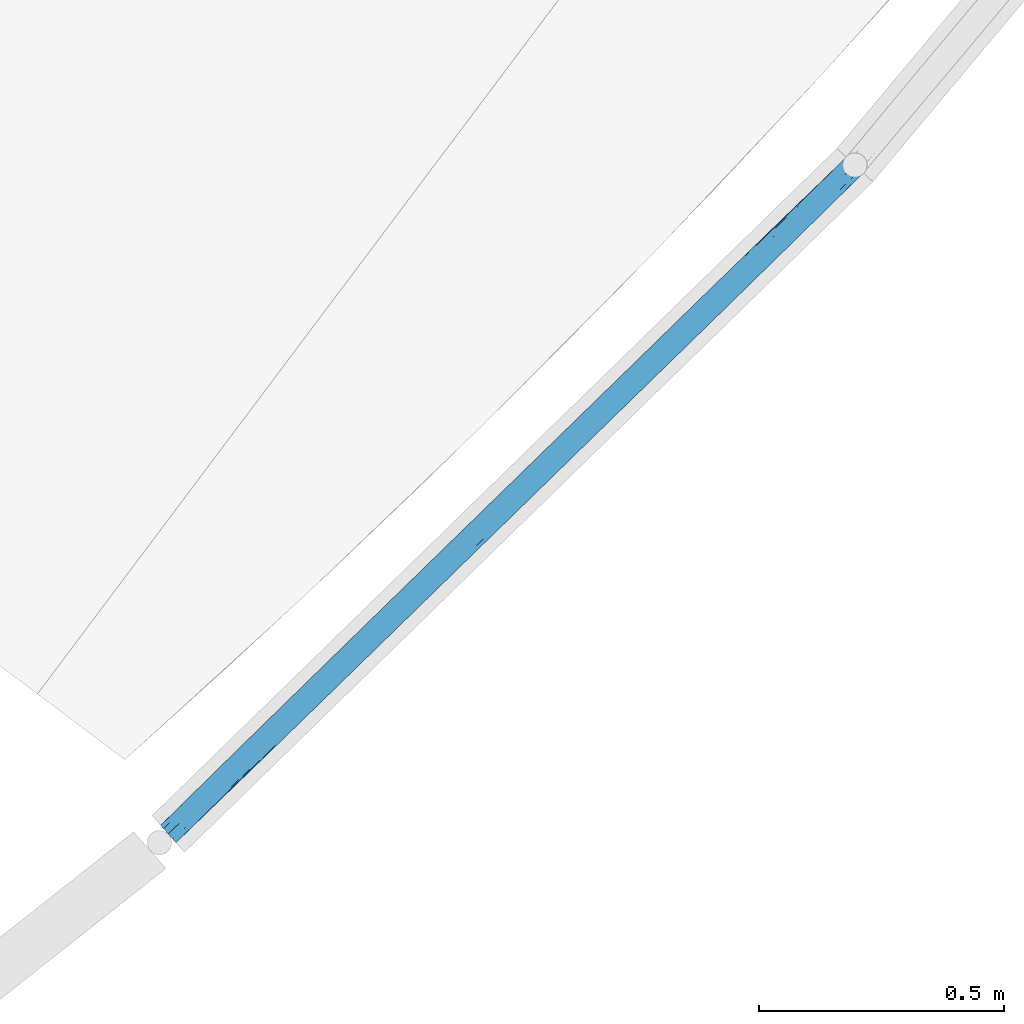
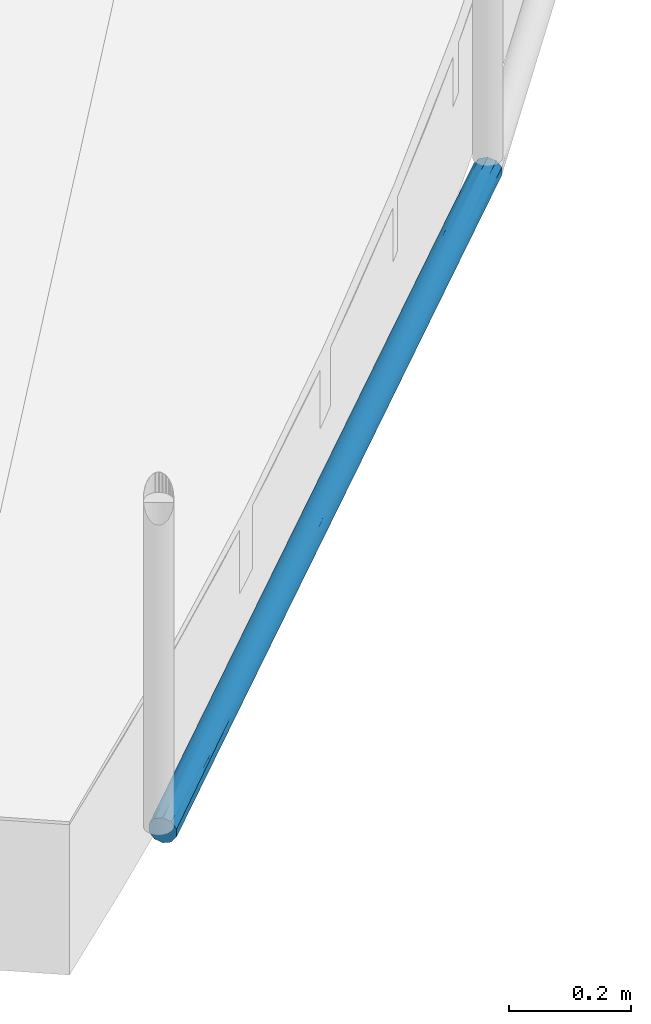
# One storey, part 25 of 33: 1 member, 1 element without a shape of its own.
"""IFC2X3 building model written with IfcOpenShell, lengths in metres."""

import ifcopenshell
import ifcopenshell.guid

model = None  # the IFC model being written
_history = None  # IfcOwnerHistory: only IFC2X3 demands one
_inside = {}  # id of a spatial element -> (the spatial element, [elements in it])
_under = {}  # id of a project, library or spatial element -> (it, [spatial elements below it])
_declared = {}  # id of a project -> (the project, [libraries it declares])
_typed = {}  # id of a type object -> (the type object, [elements of that type])
_made_of = {}  # id of a material, layer set ... -> (it, [elements and type objects made of it])


def new_model(schema):
    """Start an empty IFC model of exactly this schema.

    Asked for "IFC4X3", IfcOpenShell would pick the latest addendum, in which some entities
    have other attributes; the version numbers below select the first issue.
    IFC2X3 requires an IfcOwnerHistory on every rooted entity: one is made here for all.
    """
    global model, _history
    if schema == "IFC4X3":
        model = ifcopenshell.file(schema_version=(4, 3, 0, 0))
    else:
        model = ifcopenshell.file(schema=schema)
    _inside.clear()
    _under.clear()
    _declared.clear()
    _typed.clear()
    _made_of.clear()
    _history = None
    if model.schema == "IFC2X3":
        org = make("IfcOrganization", Name="unknown")
        user = make(
            "IfcPersonAndOrganization",
            ThePerson=make("IfcPerson", FamilyName="unknown"),
            TheOrganization=org,
        )
        app = make(
            "IfcApplication",
            ApplicationDeveloper=org,
            Version="unknown",
            ApplicationFullName="unknown",
            ApplicationIdentifier="unknown",
        )
        _history = make(
            "IfcOwnerHistory",
            OwningUser=user,
            OwningApplication=app,
            ChangeAction="ADDED",
            CreationDate=0,
        )
    return model


def make(cls, **values):
    """One entity of the class cls with the attributes given. An attribute that is None is left unset."""
    return model.create_entity(
        cls, **{name: value for name, value in values.items() if value is not None}
    )


def entity(cls, *values):
    """Any entity or typed value of the class cls, its attributes in the order of the schema. None: left unset."""
    e = model.create_entity(cls)
    for i, value in enumerate(values):
        if value is not None:
            e[i] = value
    return e


def rooted(cls, **values):
    """An entity with a GlobalId (a new one), such as an element, a storey or a relation."""
    return make(cls, GlobalId=ifcopenshell.guid.new(), OwnerHistory=_history, **values)


def si_unit(unit_type, name, prefix=None):
    """IfcSIUnit, for example si_unit("LENGTHUNIT", "METRE", prefix="MILLI")."""
    return make("IfcSIUnit", UnitType=unit_type, Prefix=prefix, Name=name)


def converted_unit(unit_type, name, factor, base, dimensions=None, offset=None):
    """IfcConversionBasedUnit, such as the inch: factor (a typed value) times the base unit."""
    return make(
        "IfcConversionBasedUnit"
        if offset is None
        else "IfcConversionBasedUnitWithOffset",
        ConversionOffset=offset,
        Dimensions=None
        if dimensions is None
        else entity("IfcDimensionalExponents", *dimensions),
        UnitType=unit_type,
        Name=name,
        ConversionFactor=make(
            "IfcMeasureWithUnit", ValueComponent=factor, UnitComponent=base
        ),
    )


def derived_unit(unit_type, elements):
    """IfcDerivedUnit: a product of units, each with its exponent."""
    return make(
        "IfcDerivedUnit",
        Elements=[
            make("IfcDerivedUnitElement", Unit=unit, Exponent=power)
            for unit, power in elements
        ],
        UnitType=unit_type,
    )


def assignment(units):
    """IfcUnitAssignment: the units of a project."""
    return None if units is None else make("IfcUnitAssignment", Units=units)


def point(xyz):
    """IfcCartesianPoint."""
    return None if xyz is None else make("IfcCartesianPoint", Coordinates=xyz)


def direction(xyz):
    """IfcDirection."""
    return None if xyz is None else make("IfcDirection", DirectionRatios=xyz)


def frame(location, z_axis=None, x_axis=None):
    """IfcAxis2Placement3D, a coordinate frame: its origin and axes. An axis left out is left unset."""
    return make(
        "IfcAxis2Placement3D",
        Location=point(location),
        Axis=direction(z_axis),
        RefDirection=direction(x_axis),
    )


def origin():
    """The frame at (0, 0, 0) with its axes left unset."""
    return frame((0.0, 0.0, 0.0))


def place(relative_to, where):
    """IfcLocalPlacement: puts the frame where relative to a parent placement (None: the world)."""
    return make(
        "IfcLocalPlacement", PlacementRelTo=relative_to, RelativePlacement=where
    )


def context(
    kind, dimensions, precision=None, world=None, true_north=None, identifier=None
):
    """IfcGeometricRepresentationContext, for example the 3D "Model" context."""
    return make(
        "IfcGeometricRepresentationContext",
        ContextIdentifier=identifier,
        ContextType=kind,
        CoordinateSpaceDimension=dimensions,
        Precision=precision,
        WorldCoordinateSystem=world,
        TrueNorth=true_north,
    )


def subcontext(parent, identifier, kind, view, scale=None):
    """IfcGeometricRepresentationSubContext, for example "Body" below "Model"."""
    return make(
        "IfcGeometricRepresentationSubContext",
        ContextIdentifier=identifier,
        ContextType=kind,
        ParentContext=parent,
        TargetScale=scale,
        TargetView=view,
    )


def project(units=None, contexts=None):
    """IfcProject with its units and contexts."""
    return rooted(
        "IfcProject",
        Name="project",
        RepresentationContexts=contexts,
        UnitsInContext=assignment(units),
    )


def spatial(cls, under=None, at=None, **own):
    """A site, building, storey or space (cls), placed at a placement, below another one or the project."""
    s = rooted(cls, ObjectPlacement=at, **own)
    if under is not None:
        _under.setdefault(under.id(), (under, []))[1].append(s)
    return s


def faces_of(points, faces, orient=None, outer=None):
    """IfcFace entities. A face is a list of loops; a loop is a list of indices into points, from 0.

    orient and outer hold one flag for each loop. By default every Orientation is true, the
    first loop of a face is its IfcFaceOuterBound and the others are IfcFaceBound.
    """
    made = []
    for i, loops in enumerate(faces):
        bounds = []
        for j, loop in enumerate(loops):
            is_outer = j == 0 if outer is None else outer[i][j]
            bounds.append(
                make(
                    "IfcFaceOuterBound" if is_outer else "IfcFaceBound",
                    Bound=make("IfcPolyLoop", Polygon=[points[k] for k in loop]),
                    Orientation=True if orient is None else orient[i][j],
                )
            )
        made.append(make("IfcFace", Bounds=bounds))
    return made


def faceted_brep(points, faces, orient=None, outer=None, voids=None):
    """IfcFacetedBrep: a solid bounded by flat faces; with voids (closed shells), ...WithVoids."""
    shared = [point(p) for p in points]
    hull = make("IfcClosedShell", CfsFaces=faces_of(shared, faces, orient, outer))
    if voids is None:
        return make("IfcFacetedBrep", Outer=hull)
    return make(
        "IfcFacetedBrepWithVoids",
        Outer=hull,
        Voids=[
            make(cls, CfsFaces=faces_of(shared, fs, o, b)) for cls, fs, o, b in voids
        ],
    )


def shape(context_of_items, identifier, shape_type, items):
    """IfcShapeRepresentation: the items that make up one representation, for example the "Body"."""
    return make(
        "IfcShapeRepresentation",
        ContextOfItems=context_of_items,
        RepresentationIdentifier=identifier,
        RepresentationType=shape_type,
        Items=items,
    )


def source(mapping_origin, context_of_items, identifier, shape_type, items):
    """IfcRepresentationMap: a shape defined once, which mapped items show again and again."""
    return make(
        "IfcRepresentationMap",
        MappingOrigin=mapping_origin,
        MappedRepresentation=shape(context_of_items, identifier, shape_type, items),
    )


def transform(
    local_origin,
    x_axis=None,
    y_axis=None,
    z_axis=None,
    scale=None,
    scale2=None,
    scale3=None,
    uniform=True,
):
    """IfcCartesianTransformationOperator3D, or its non-uniform kind. x_axis, y_axis, z_axis: its Axis1, 2, 3."""
    if uniform:
        return make(
            "IfcCartesianTransformationOperator3D",
            Axis1=direction(x_axis),
            Axis2=direction(y_axis),
            LocalOrigin=point(local_origin),
            Scale=scale,
            Axis3=direction(z_axis),
        )
    return make(
        "IfcCartesianTransformationOperator3DnonUniform",
        Axis1=direction(x_axis),
        Axis2=direction(y_axis),
        LocalOrigin=point(local_origin),
        Scale=scale,
        Axis3=direction(z_axis),
        Scale2=scale2,
        Scale3=scale3,
    )


def mapped(mapping_source, mapping_target):
    """IfcMappedItem: shows the shape of a source again, moved by a transform."""
    return make(
        "IfcMappedItem", MappingSource=mapping_source, MappingTarget=mapping_target
    )


def material(Name=None, Category=None):
    """IfcMaterial."""
    return make("IfcMaterial", Name=Name, Category=Category)


def made_of(thing, what):
    """Note that an element or type object is made of a material, layer set ...; save() writes the relation."""
    if what is not None:
        _made_of.setdefault(what.id(), (what, []))[1].append(thing)
    return thing


def type_object(cls, material=None, **own):
    """A type object (cls), such as IfcWallType, which elements share."""
    return made_of(rooted(cls, **own), material)


def type_shapes(of_type, sources):
    """Give a type object the sources (RepresentationMaps) that its elements show as mapped items."""
    of_type.RepresentationMaps = sources


def element(
    cls,
    number,
    at=None,
    inside=None,
    cuts=None,
    type_object=None,
    material=None,
    context=None,
    identifier="Body",
    shape_type=None,
    held_by="IfcProductDefinitionShape",
    body=None,
    shapes=None,
    **own,
):
    """One element of the class cls, such as IfcWall. Its Tag is "e" and its number.

    at: its placement. inside: the storey or other place that contains it. cuts: it is an
    opening in that element (IfcRelVoidsElement). A single representation is given by context,
    identifier, shape_type and body (its items); several are given by shapes. held_by: the class
    of the entity that holds the representations. save() writes the other relations.
    """
    e = rooted(cls, Tag="e%d" % number, ObjectPlacement=at, **own)
    if body is not None:
        shapes = [shape(context, identifier, shape_type, body)]
    if shapes is not None:
        e.Representation = make(held_by, Representations=shapes)
    if inside is not None:
        _inside.setdefault(inside.id(), (inside, []))[1].append(e)
    if cuts is not None:
        rooted(
            "IfcRelVoidsElement", RelatingBuildingElement=cuts, RelatedOpeningElement=e
        )
    if type_object is not None:
        _typed.setdefault(type_object.id(), (type_object, []))[1].append(e)
    return made_of(e, material)


def aggregate(whole, parts):
    """IfcRelAggregates: a whole, such as a stair, and the parts it consists of."""
    return rooted("IfcRelAggregates", RelatingObject=whole, RelatedObjects=parts)


def save(model, path):
    """Write the relations noted so far, then the file.

    IfcRelAggregates (storeys below a building ...), IfcRelContainedInSpatialStructure (elements
    in a storey), IfcRelDefinesByType, IfcRelAssociatesMaterial and IfcRelDeclares: one each for
    every whole, place, type object, material and project.
    """
    for whole, parts in _under.values():
        aggregate(whole, parts)
    for where, things in _inside.values():
        rooted(
            "IfcRelContainedInSpatialStructure",
            RelatedElements=things,
            RelatingStructure=where,
        )
    for kind, things in _typed.values():
        rooted("IfcRelDefinesByType", RelatedObjects=things, RelatingType=kind)
    for what, things in _made_of.values():
        rooted("IfcRelAssociatesMaterial", RelatedObjects=things, RelatingMaterial=what)
    for by, libraries in _declared.values():
        rooted("IfcRelDeclares", RelatingContext=by, RelatedDefinitions=libraries)
    model.write(path)


model = new_model("IFC2X3")

# Units and contexts
model_context = context("Model", 3, precision=1e-05, world=origin(), true_north=direction((6.123031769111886e-17, 1.0)))
body_context = subcontext(model_context, "Body", "Model", "MODEL_VIEW")
ifc_project = project(units=[si_unit("LENGTHUNIT", "METRE"), si_unit("AREAUNIT", "SQUARE_METRE"), si_unit("VOLUMEUNIT", "CUBIC_METRE"), converted_unit("PLANEANGLEUNIT", "DEGREE", entity("IfcRatioMeasure", 0.017453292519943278), si_unit("PLANEANGLEUNIT", "RADIAN"), dimensions=[0, 0, 0, 0, 0, 0, 0]), si_unit("MASSUNIT", "GRAM", prefix="KILO"), derived_unit("MASSDENSITYUNIT", [(si_unit("MASSUNIT", "GRAM", prefix="KILO"), 1), (si_unit("LENGTHUNIT", "METRE"), -3)]), derived_unit("IONCONCENTRATIONUNIT", [(si_unit("MASSUNIT", "GRAM", prefix="KILO"), 1), (si_unit("LENGTHUNIT", "METRE"), -3)]), derived_unit("MOMENTOFINERTIAUNIT", [(si_unit("LENGTHUNIT", "METRE"), 4)]), si_unit("TIMEUNIT", "SECOND"), si_unit("FREQUENCYUNIT", "HERTZ"), si_unit("THERMODYNAMICTEMPERATUREUNIT", "DEGREE_CELSIUS"), derived_unit("THERMALTRANSMITTANCEUNIT", [(si_unit("MASSUNIT", "GRAM", prefix="KILO"), 1), (si_unit("THERMODYNAMICTEMPERATUREUNIT", "KELVIN"), -1), (si_unit("TIMEUNIT", "SECOND"), -3)]), derived_unit("THERMALCONDUCTANCEUNIT", [(si_unit("MASSUNIT", "GRAM", prefix="KILO"), 1), (si_unit("THERMODYNAMICTEMPERATUREUNIT", "KELVIN"), -1), (si_unit("TIMEUNIT", "SECOND"), -3), (si_unit("LENGTHUNIT", "METRE"), 1)]), derived_unit("VOLUMETRICFLOWRATEUNIT", [(si_unit("LENGTHUNIT", "METRE"), 3), (si_unit("TIMEUNIT", "SECOND"), -1)]), derived_unit("MASSFLOWRATEUNIT", [(si_unit("MASSUNIT", "GRAM", prefix="KILO"), 1), (si_unit("TIMEUNIT", "SECOND"), -1)]), derived_unit("ROTATIONALFREQUENCYUNIT", [(si_unit("TIMEUNIT", "SECOND"), -1)]), si_unit("ELECTRICCURRENTUNIT", "AMPERE"), si_unit("ELECTRICVOLTAGEUNIT", "VOLT"), si_unit("POWERUNIT", "WATT"), si_unit("FORCEUNIT", "NEWTON", prefix="KILO"), si_unit("ILLUMINANCEUNIT", "LUX"), si_unit("LUMINOUSFLUXUNIT", "LUMEN"), si_unit("LUMINOUSINTENSITYUNIT", "CANDELA"), derived_unit("USERDEFINED", [(si_unit("MASSUNIT", "GRAM", prefix="KILO"), -1), (si_unit("LENGTHUNIT", "METRE"), -2), (si_unit("TIMEUNIT", "SECOND"), 3), (si_unit("LUMINOUSFLUXUNIT", "LUMEN"), 1)]), derived_unit("USERDEFINED", [(si_unit("MASSUNIT", "GRAM", prefix="KILO"), 1), (si_unit("TIMEUNIT", "SECOND"), -3), (si_unit("LENGTHUNIT", "METRE"), 3), (si_unit("ELECTRICCURRENTUNIT", "AMPERE"), -2)]), derived_unit("SOUNDPOWERUNIT", [(si_unit("MASSUNIT", "GRAM", prefix="KILO"), 1), (si_unit("TIMEUNIT", "SECOND"), -3), (si_unit("LENGTHUNIT", "METRE"), 2)]), derived_unit("SOUNDPRESSUREUNIT", [(si_unit("MASSUNIT", "GRAM", prefix="KILO"), 1), (si_unit("LENGTHUNIT", "METRE"), -1), (si_unit("TIMEUNIT", "SECOND"), -2)]), derived_unit("LINEARVELOCITYUNIT", [(si_unit("LENGTHUNIT", "METRE"), 1), (si_unit("TIMEUNIT", "SECOND"), -1)]), si_unit("PRESSUREUNIT", "PASCAL"), derived_unit("USERDEFINED", [(si_unit("MASSUNIT", "GRAM", prefix="KILO"), 1), (si_unit("LENGTHUNIT", "METRE"), -2), (si_unit("TIMEUNIT", "SECOND"), -2)]), derived_unit("LINEARFORCEUNIT", [(si_unit("MASSUNIT", "GRAM", prefix="KILO"), 1), (si_unit("TIMEUNIT", "SECOND"), -2)]), derived_unit("PLANARFORCEUNIT", [(si_unit("MASSUNIT", "GRAM", prefix="KILO"), 1), (si_unit("LENGTHUNIT", "METRE"), -1), (si_unit("TIMEUNIT", "SECOND"), -2)]), derived_unit("SPECIFICHEATCAPACITYUNIT", [(si_unit("THERMODYNAMICTEMPERATUREUNIT", "KELVIN"), -1), (si_unit("LENGTHUNIT", "METRE"), 2), (si_unit("TIMEUNIT", "SECOND"), -2)]), derived_unit("HEATINGVALUEUNIT", [(si_unit("LENGTHUNIT", "METRE"), 2), (si_unit("TIMEUNIT", "SECOND"), -2)]), derived_unit("VAPORPERMEABILITYUNIT", [(si_unit("LENGTHUNIT", "METRE"), -1), (si_unit("TIMEUNIT", "SECOND"), 1)]), derived_unit("DYNAMICVISCOSITYUNIT", [(si_unit("MASSUNIT", "GRAM", prefix="KILO"), 1), (si_unit("TIMEUNIT", "SECOND"), -1), (si_unit("LENGTHUNIT", "METRE"), -1)]), derived_unit("THERMALEXPANSIONCOEFFICIENTUNIT", [(si_unit("THERMODYNAMICTEMPERATUREUNIT", "KELVIN"), -1)]), derived_unit("MODULUSOFELASTICITYUNIT", [(si_unit("MASSUNIT", "GRAM", prefix="KILO"), 1), (si_unit("LENGTHUNIT", "METRE"), -1), (si_unit("TIMEUNIT", "SECOND"), -2)]), derived_unit("ISOTHERMALMOISTURECAPACITYUNIT", [(si_unit("LENGTHUNIT", "METRE"), 3), (si_unit("MASSUNIT", "GRAM", prefix="KILO"), -1)]), derived_unit("MOISTUREDIFFUSIVITYUNIT", [(si_unit("TIMEUNIT", "SECOND"), -1), (si_unit("LENGTHUNIT", "METRE"), 2)])], contexts=[model_context])

# Site, building, storey
site_placement = place(None, origin())
site = spatial("IfcSite", under=ifc_project, at=site_placement, Name="Superficie", CompositionType="ELEMENT")
building_placement = place(site_placement, frame((0.0, 0.0, 235.0), z_axis=(0.0, 0.0, 1.0), x_axis=(-0.7996477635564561, 0.6004693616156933, 0.0)))
building = spatial("IfcBuilding", under=site, at=building_placement, CompositionType="ELEMENT")
storey_placement = place(building_placement, origin())
storey = spatial("IfcBuildingStorey", under=building, at=storey_placement, Name="P0- Escola", CompositionType="ELEMENT", Elevation=0.0)

# Curtain wall, member
curtain_wall_type = type_object("IfcCurtainWallType", Name="Muro cortina:SER EXT- Tanca exterior", PredefinedType="NOTDEFINED")
curtain_wall_placement = place(storey_placement, origin())
curtain_wall = element("IfcCurtainWall", 1, at=curtain_wall_placement, inside=storey, type_object=curtain_wall_type, Name="Muro cortina:SER EXT- Tanca exterior", ObjectType="Muro cortina:SER EXT- Tanca exterior")
ifc_material = material(Name="Acero inoxidable")
member_type = type_object("IfcMemberType", Name="Montante circular:Perfil Tanca exterior", PredefinedType="MULLION", material=ifc_material)
shared_shape = source(origin(), body_context, "Body", "Brep", [
    faceted_brep([(-0.032725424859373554, 0.023776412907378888, -0.0012065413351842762), (-0.024999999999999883, 0.023776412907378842, -0.0012065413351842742), (-0.017274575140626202, 0.023776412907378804, -0.0012065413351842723), (-0.02108913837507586, 0.02469220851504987, -0.21921698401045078), (-0.028910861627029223, 0.024692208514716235, -0.2192169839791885), (-0.035850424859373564, 0.02150596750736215, -0.0010913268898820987), (-0.035133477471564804, 0.022854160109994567, -0.3374735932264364), (-0.011454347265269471, 0.021012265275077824, -1.7572418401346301), (-0.014149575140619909, 0.02150596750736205, -1.9583100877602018), (-0.01486652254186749, 0.022854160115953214, -1.621927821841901), (-0.01828828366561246, 0.02408221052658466, -0.6763837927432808), (-0.013952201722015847, 0.02242646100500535, -0.7707687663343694), (-0.019083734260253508, 0.024289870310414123, -0.9254681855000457), (-0.001027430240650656, 0.007093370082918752, -0.7573888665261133), (0.0, 0.0, -0.6983409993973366), (0.0, 0.0, -0.9457951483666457), (0.0, 0.0, -0.9797007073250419), (-0.03171171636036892, 0.024082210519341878, -1.28301762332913), (-0.03604779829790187, 0.022426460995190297, -1.1886326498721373), (-0.030916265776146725, 0.024289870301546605, -1.0339332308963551), (-0.002892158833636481, 0.011672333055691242, -0.9797007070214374), (-0.0007338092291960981, 0.006012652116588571, -1.0552422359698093), (-0.002286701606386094, 0.010445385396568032, -1.2301888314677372), (-0.0499999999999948, 0.0, -1.6102278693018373), (-0.04999999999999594, 0.0, -1.2610621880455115), (-0.04958010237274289, 0.004562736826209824, -1.4356457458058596), (-0.01943243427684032, 0.02437216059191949, -0.43927929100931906), (-0.02500000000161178, 0.025, -0.43722742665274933), (-0.011024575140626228, 0.01923552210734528, -0.0009761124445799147), (-0.007318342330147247, 0.017673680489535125, -0.3255154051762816), (-0.01085826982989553, 0.0206158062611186, -0.2173304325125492), (-0.007396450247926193, 0.01775147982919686, -1.0619567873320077), (-0.005346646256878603, 0.015451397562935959, -1.3168436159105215), (-0.010296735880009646, 0.02021914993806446, -1.3441687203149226), (-0.01955470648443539, 0.024399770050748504, -1.5239349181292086), (-0.021089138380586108, 0.02469220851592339, -1.7401844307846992), (-0.042603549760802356, 0.017751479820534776, -0.8974446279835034), (-0.044653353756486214, 0.015451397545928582, -0.6425577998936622), (-0.03970326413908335, 0.02021914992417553, -0.6152326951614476), (-0.025000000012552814, 0.025, -1.522173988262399), (-0.028910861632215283, 0.024692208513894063, -1.7401844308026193), (-0.03056756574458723, 0.02437216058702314, -1.5201221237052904), (-0.04897256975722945, 0.007093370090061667, -1.2020125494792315), (-0.04999999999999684, 0.0, -0.9797007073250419), (-0.04522542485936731, 0.014694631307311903, -1.9586557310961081), (-0.04268165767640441, 0.017673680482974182, -1.6338860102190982), (-0.03897542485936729, 0.019235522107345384, -1.9584253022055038), (-0.04710784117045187, 0.011672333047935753, -0.9797007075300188), (-0.049266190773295, 0.006012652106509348, -0.9041591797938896), (-0.0477132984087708, 0.010445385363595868, -0.7292125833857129), (-0.00041989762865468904, 0.004562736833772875, -0.5237556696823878), (0.0, 0.0, -0.3491704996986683), (0.0, 0.0, -0.6305297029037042), (0.0, 0.0, -1.9594014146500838), (-0.0023872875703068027, 0.007347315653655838, -1.9590285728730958), (-0.0007140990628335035, 0.005932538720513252, -1.6153030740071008), (-0.004774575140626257, 0.014694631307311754, -0.000745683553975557), (-0.05, 0.0, 0.0), (-0.047612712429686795, 0.007347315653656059, -0.0003728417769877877), (-0.049285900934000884, 0.005932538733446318, -0.34409833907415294), (-0.0172745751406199, 0.023776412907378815, -1.9581948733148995), (-0.030445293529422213, 0.024399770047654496, -0.43546649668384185), (-0.03914173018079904, 0.02061580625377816, -1.7420709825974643), (-0.0024224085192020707, 0.010735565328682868, -1.486573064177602), (-0.013742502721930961, 0.02232193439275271, -1.2103754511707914), (-0.04757759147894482, 0.010735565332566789, -0.47282835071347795), (-0.03625749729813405, 0.022321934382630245, -0.7490259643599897), (-0.005828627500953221, 0.01604551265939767, -0.7900983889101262), (-0.0007706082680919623, 0.00615926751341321, -0.2620866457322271), (-0.0006242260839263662, 0.005551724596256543, -1.369643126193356), (-0.007318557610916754, 0.01767389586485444, -1.6514122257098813), (-0.010720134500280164, 0.020520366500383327, -1.551253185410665), (-0.044171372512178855, 0.016045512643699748, -1.1693030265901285), (-0.049229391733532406, 0.006159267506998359, -1.6973147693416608), (-0.04937577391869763, 0.005551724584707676, -0.5897582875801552), (-0.042681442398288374, 0.01767389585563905, -0.3079891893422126), (-0.03927986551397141, 0.02052036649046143, -0.4081482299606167), (-0.03272542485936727, 0.02377641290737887, -1.9581948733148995), (-0.025000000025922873, 0.025, -0.9797007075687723), (-0.017453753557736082, 0.023833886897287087, -1.1071226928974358), (-0.025236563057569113, 0.024998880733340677, -1.2509373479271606), (-0.028891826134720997, 0.024695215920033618, -0.8354838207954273), (-0.03970375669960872, 0.020218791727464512, -1.309116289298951), (-0.04361990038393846, 0.016682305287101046, -1.403691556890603), (-0.04727746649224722, 0.011345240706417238, -1.7783303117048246), (-0.039374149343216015, 0.02045443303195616, -1.5425146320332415), (-0.03542956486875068, 0.02272056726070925, -1.6126197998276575), (-0.03571644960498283, 0.02258667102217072, -1.4011486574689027), (-0.04029319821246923, 0.019776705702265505, -1.0850101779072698), (-0.03187310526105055, 0.024036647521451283, -0.6599168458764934), (-0.03571205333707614, 0.02258875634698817, -0.548103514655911), (-0.023580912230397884, 0.02495969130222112, -0.7532272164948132), (-0.04522542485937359, 0.01469463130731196, -0.0007456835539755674), (-0.038975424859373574, 0.019235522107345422, -0.0009761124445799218), (-0.04742332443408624, 0.011054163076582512, -0.21371113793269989), (-0.038545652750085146, 0.021012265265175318, -0.20215957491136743), (-0.036398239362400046, 0.022250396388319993, -0.9621802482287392), (-0.04702716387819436, 0.011823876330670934, -1.19045450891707), (-0.04999999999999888, 0.0, -0.3491735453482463), (-0.04999999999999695, 0.0, -0.9457953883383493), (-0.04999999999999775, 0.0, -0.6983392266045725), (-0.047612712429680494, 0.0073473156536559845, -1.9590285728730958), (-0.04999999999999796, 0.0, -0.6305302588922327), (-0.04999999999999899, 0.0, -0.31526512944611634), (-0.04757759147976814, 0.010735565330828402, -1.4865730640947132), (-0.049999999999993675, 0.0, -1.9594014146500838), (-0.014570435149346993, 0.022720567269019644, -0.3467816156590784), (-0.010625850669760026, 0.020454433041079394, -0.4168867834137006), (-0.0027225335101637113, 0.01134524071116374, -0.1810711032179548), (-0.010296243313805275, 0.0202187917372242, -0.6502851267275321), (-0.00638009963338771, 0.016682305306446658, -0.5557098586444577), (-0.014283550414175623, 0.022586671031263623, -0.5582527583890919), (-0.009706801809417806, 0.0197767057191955, -0.8743912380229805), (-0.01812689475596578, 0.02403664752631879, -1.2994845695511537), (-0.014287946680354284, 0.022588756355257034, -1.411297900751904), (-0.004774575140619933, 0.014694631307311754, -1.9586557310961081), (-0.011024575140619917, 0.019235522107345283, -1.9584253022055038), (-0.002576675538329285, 0.011054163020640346, -1.745690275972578), (-0.013601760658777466, 0.022250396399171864, -0.9972211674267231), (-0.002972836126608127, 0.011823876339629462, -0.7689469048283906), (0.0, 0.0, -1.6102309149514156), (0.0, 0.0, -1.2610604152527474), (-0.0023872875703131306, 0.007347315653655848, -0.000372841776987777), (-0.0024224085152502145, 0.010735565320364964, -0.47282835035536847), (0.0, 0.0, 0.0), (0.0, 0.0, -0.31526425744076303), (-0.024999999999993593, 0.02377641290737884, -1.9581948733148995), (-0.03171669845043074, -0.02408082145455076, -0.6731656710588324), (-0.036030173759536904, -0.022435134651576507, -0.7669129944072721), (-0.030899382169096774, -0.02429397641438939, -0.9221619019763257), (-0.017862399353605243, -0.023959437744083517, -0.6184549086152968), (-0.020297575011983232, -0.024553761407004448, -0.8366839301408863), (-0.01563702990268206, -0.02318048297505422, -0.7976671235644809), (-0.0007599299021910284, -0.006117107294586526, -1.1255928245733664), (-0.030563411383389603, -0.024373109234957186, -0.4374004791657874), (-0.024999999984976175, -0.025, -0.4361518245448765), (-0.02891086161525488, -0.024692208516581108, -0.21747264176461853), (-0.047612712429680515, -0.0073473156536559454, -1.9597742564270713), (-0.04916165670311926, -0.006419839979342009, -1.6278518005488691), (-0.0452254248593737, -0.01469463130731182, 0.0007456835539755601), (-0.04267368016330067, -0.01768165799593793, -0.323817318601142), (-0.038975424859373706, -0.019235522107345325, 0.0009761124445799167), (-0.038529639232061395, -0.02102257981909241, -1.7585705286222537), (-0.03585042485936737, -0.021505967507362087, -1.9604927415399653), (-0.03510155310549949, -0.022868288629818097, -1.622765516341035), (-0.04910374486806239, -0.006633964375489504, -0.5937716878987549), (-0.049328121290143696, -0.005756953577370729, -0.35470099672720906), (-0.03541811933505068, -0.02272581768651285, -0.3445726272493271), (-0.03272542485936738, -0.023776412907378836, -1.9606079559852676), (-0.049308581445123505, -0.005838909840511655, -1.1077157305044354), (-0.030419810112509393, -0.024405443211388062, -1.5264645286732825), (-0.028910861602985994, -0.024692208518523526, -1.7419287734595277), (-0.005602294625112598, -0.015771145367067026, -0.7601798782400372), (-0.010314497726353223, -0.02023205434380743, -0.6483803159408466), (-0.010684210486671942, -0.020495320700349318, -0.8717364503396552), (-0.011024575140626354, -0.019235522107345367, 0.000976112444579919), (-0.017274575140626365, -0.023776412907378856, 0.0012065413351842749), (-0.013655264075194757, -0.02227772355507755, -0.32358688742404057), (-0.0006057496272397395, -0.005469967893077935, -1.3801047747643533), (-0.0028866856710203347, -0.011661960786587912, -1.2009994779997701), (-0.002493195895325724, -0.010883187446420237, -0.7003397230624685), (-0.002665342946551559, -0.01123223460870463, -0.9457953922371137), (-0.0006754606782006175, -0.005772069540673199, -0.8381418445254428), (-0.04284225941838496, -0.01751153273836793, -1.0544385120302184), (-0.047325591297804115, -0.01125024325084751, -1.2007203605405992), (-0.04433188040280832, -0.015851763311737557, -1.3356169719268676), (-0.007325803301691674, -0.017681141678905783, -0.2817854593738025), (-0.01031403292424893, -0.020231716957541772, -1.3440753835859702), (-0.014617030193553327, -0.022741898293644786, -0.9962348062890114), (-0.018022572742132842, -0.02400657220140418, -1.3186718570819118), (-0.014479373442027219, -0.02267854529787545, -1.6326479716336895), (-0.007555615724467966, -0.01790791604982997, -1.6590616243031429), (-0.03968596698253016, -0.02023171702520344, -1.3440753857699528), (-0.03624073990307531, -0.022330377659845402, -1.2096922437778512), (-0.04932453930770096, -0.0057720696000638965, -0.8210885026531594), (-0.04733465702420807, -0.011232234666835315, -0.9457953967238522), (-0.04731638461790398, -0.011268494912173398, -0.6996377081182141), (-0.002387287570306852, -0.007347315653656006, -1.9597742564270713), (-0.0008952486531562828, -0.006630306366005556, -1.6551388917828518), (-0.0033363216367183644, -0.012477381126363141, -1.715262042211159), (-0.0007057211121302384, -0.005898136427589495, -0.33501068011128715), (-0.0024240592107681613, -0.010739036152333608, -0.20745367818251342), (-0.0024558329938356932, -0.010805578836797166, -0.4543890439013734), (-0.03913521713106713, -0.020620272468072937, -0.21535392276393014), (-0.0065147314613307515, -0.016831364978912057, -0.5220008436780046), (-0.007591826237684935, -0.017943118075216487, -1.0234930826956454), (-0.04935497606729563, -0.005642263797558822, -1.3625068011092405), (-0.0392606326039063, -0.020533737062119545, -1.551723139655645), (-0.0025842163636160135, -0.011069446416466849, -1.4555114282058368), (-0.0057261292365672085, -0.01592224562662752, -1.352361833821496), (-0.044214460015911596, -0.01599389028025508, -0.7797071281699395), (-0.047789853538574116, -0.01027728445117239, -0.2137272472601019), (-0.04761271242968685, -0.00734731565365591, 0.00037284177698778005), (-0.0007028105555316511, -0.005886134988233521, -0.5804839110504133), (-0.004774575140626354, -0.014694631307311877, 0.0007456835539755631), (-0.03272542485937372, -0.023776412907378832, 0.0012065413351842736), (-0.013733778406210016, -0.022317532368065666, -0.5276747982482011), (-0.009972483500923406, -0.019979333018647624, -0.43571633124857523), (-0.02893743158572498, -0.024687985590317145, -1.1215385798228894), (-0.0249999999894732, -0.025, -0.9797007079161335), (-0.044406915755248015, -0.01575981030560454, -0.5395171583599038), (-0.0457680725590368, -0.013917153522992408, -0.318207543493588), (-0.03936211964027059, -0.02046288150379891, -0.41493602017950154), (-0.03571615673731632, -0.022586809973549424, -0.5555413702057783), (-0.021089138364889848, -0.024692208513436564, -0.21747264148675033), (-0.025000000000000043, -0.023776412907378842, 0.0012065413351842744), (-0.02523663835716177, -0.024998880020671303, -0.7079262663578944), (-0.040313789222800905, -0.01976076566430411, -0.8739756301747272), (-0.03184938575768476, -0.024043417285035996, -1.2989608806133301), (-0.035690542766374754, -0.022598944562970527, -1.4104241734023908), (-0.02467497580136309, -0.024997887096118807, -1.2514751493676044), (-0.04267388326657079, -0.017681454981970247, -1.6521112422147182), (-0.04522542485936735, -0.01469463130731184, -1.960147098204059), (-0.038975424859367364, -0.01923552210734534, -1.9603775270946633), (-0.02108913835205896, -0.02469220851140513, -1.7419287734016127), (-0.024999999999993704, -0.02377641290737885, -1.9606079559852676), (-0.017274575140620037, -0.02377641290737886, -1.9606079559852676), (-0.0468629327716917, -0.012124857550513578, -1.7210081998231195), (-0.04741578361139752, -0.011069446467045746, -1.4555114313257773), (-0.03636842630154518, -0.022265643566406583, -0.9962332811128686), (-0.039685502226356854, -0.020232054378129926, -0.6483803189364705), (-0.0475441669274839, -0.010805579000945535, -0.4543890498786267), (-0.019874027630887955, -0.024468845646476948, -0.42382143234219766), (-0.01976126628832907, -0.024444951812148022, -1.0708733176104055), (-0.024999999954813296, -0.025, -1.5232495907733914), (-0.019657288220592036, -0.024422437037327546, -1.5288585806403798), (-0.011024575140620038, -0.019235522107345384, -1.9603775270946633), (-0.004774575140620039, -0.014694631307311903, -1.960147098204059), (-0.002387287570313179, -0.007347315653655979, 0.0003728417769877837)], [[[0, 1, 2, 3, 4]], [[5, 0, 6]], [[7, 8, 9]], [[10, 11, 12]], [[13, 14, 15, 16]], [[17, 18, 19]], [[20, 21, 22]], [[23, 24, 25]], [[3, 26, 27]], [[28, 29, 30]], [[31, 32, 33]], [[34, 9, 35]], [[36, 37, 38]], [[39, 40, 41]], [[42, 24, 43]], [[44, 45, 46]], [[47, 48, 49]], [[50, 51, 52, 14]], [[53, 54, 55]], [[56, 29, 28]], [[57, 58, 59]], [[8, 60, 9]], [[61, 6, 4]], [[46, 45, 62]], [[32, 22, 63]], [[31, 33, 64]], [[37, 49, 65]], [[36, 38, 66]], [[67, 20, 31]], [[50, 68, 51]], [[55, 63, 69]], [[70, 71, 33]], [[72, 47, 36]], [[25, 73, 23]], [[59, 65, 74]], [[75, 76, 38]], [[62, 77, 46]], [[78, 79, 80]], [[30, 2, 28]], [[19, 81, 78]], [[72, 82, 83]], [[45, 44, 84]], [[85, 86, 62]], [[86, 85, 87]], [[86, 41, 40]], [[17, 87, 18]], [[39, 41, 80]], [[72, 36, 88]], [[66, 89, 81]], [[89, 66, 90]], [[12, 91, 10]], [[75, 92, 93]], [[65, 94, 75]], [[95, 6, 76]], [[75, 38, 37]], [[88, 36, 96]], [[47, 49, 37]], [[82, 85, 83]], [[47, 97, 42]], [[47, 37, 36]], [[75, 37, 65]], [[43, 48, 42]], [[65, 49, 74]], [[48, 47, 42]], [[98, 59, 74]], [[48, 43, 99, 100]], [[97, 47, 72]], [[101, 73, 84]], [[74, 48, 100]], [[48, 74, 49]], [[65, 59, 94]], [[74, 100, 102, 98]], [[59, 98, 103, 57]], [[94, 59, 58]], [[58, 92, 94]], [[75, 94, 92]], [[42, 104, 25]], [[42, 25, 24]], [[23, 73, 105]], [[73, 101, 105]], [[25, 104, 73]], [[101, 84, 44]], [[73, 104, 84]], [[45, 84, 104]], [[45, 104, 83]], [[97, 83, 104]], [[106, 30, 107]], [[108, 29, 56]], [[109, 110, 67]], [[106, 107, 111]], [[26, 3, 106]], [[10, 111, 11]], [[91, 78, 81]], [[67, 31, 112]], [[64, 113, 79]], [[113, 64, 114]], [[34, 80, 113]], [[70, 115, 116]], [[39, 35, 40]], [[63, 117, 70]], [[7, 9, 71]], [[70, 33, 32]], [[112, 31, 118]], [[20, 22, 32]], [[109, 107, 110]], [[20, 119, 13]], [[20, 32, 31]], [[70, 32, 63]], [[16, 21, 13]], [[63, 22, 69]], [[21, 20, 13]], [[120, 55, 69]], [[121, 21, 16]], [[119, 20, 67]], [[122, 68, 108]], [[69, 21, 121]], [[21, 69, 22]], [[63, 55, 117]], [[120, 69, 121]], [[53, 55, 120]], [[117, 55, 54]], [[54, 115, 117]], [[70, 117, 115]], [[13, 123, 50]], [[13, 50, 14]], [[68, 124, 125, 51]], [[68, 122, 124]], [[50, 123, 68]], [[122, 108, 56]], [[68, 123, 108]], [[29, 108, 123]], [[29, 123, 110]], [[119, 110, 123]], [[35, 60, 126, 77, 40]], [[77, 86, 40]], [[87, 41, 86]], [[80, 41, 17]], [[35, 39, 34]], [[80, 34, 39]], [[114, 34, 113]], [[106, 3, 2]], [[4, 3, 27]], [[111, 26, 106]], [[91, 26, 10]], [[61, 4, 27]], [[95, 5, 6]], [[27, 89, 61]], [[90, 61, 89]], [[85, 62, 45]], [[77, 62, 86]], [[83, 85, 45]], [[87, 85, 82]], [[18, 87, 82]], [[41, 87, 17]], [[88, 18, 82]], [[19, 18, 96]], [[19, 80, 17]], [[78, 12, 79]], [[96, 66, 81]], [[80, 19, 78]], [[96, 81, 19]], [[91, 89, 27]], [[89, 91, 81]], [[26, 91, 27]], [[36, 66, 96]], [[90, 66, 38]], [[76, 90, 38]], [[61, 90, 6]], [[6, 0, 4]], [[95, 75, 93]], [[90, 76, 6]], [[75, 95, 76]], [[5, 95, 93]], [[18, 88, 96]], [[72, 88, 82]], [[83, 97, 72]], [[104, 42, 97]], [[107, 30, 29]], [[2, 30, 106]], [[110, 107, 29]], [[111, 107, 109]], [[11, 111, 109]], [[26, 111, 10]], [[112, 11, 109]], [[12, 11, 118]], [[118, 64, 79]], [[91, 12, 78]], [[31, 64, 118]], [[114, 64, 33]], [[71, 114, 33]], [[34, 114, 9]], [[80, 79, 113]], [[118, 79, 12]], [[9, 60, 35]], [[7, 70, 116]], [[114, 71, 9]], [[70, 7, 71]], [[8, 7, 116]], [[11, 112, 118]], [[67, 112, 109]], [[110, 119, 67]], [[123, 13, 119]], [[127, 128, 129]], [[130, 131, 132]], [[133, 121, 16, 15]], [[134, 135, 136]], [[105, 137, 138]], [[139, 140, 141]], [[142, 143, 144]], [[102, 145, 146]], [[134, 136, 147]], [[148, 144, 143]], [[149, 99, 43, 24]], [[150, 144, 151]], [[152, 153, 154]], [[155, 156, 157]], [[158, 133, 159]], [[160, 161, 162]], [[163, 164, 165]], [[155, 157, 166]], [[167, 168, 169]], [[170, 171, 167]], [[172, 173, 163]], [[174, 149, 175]], [[176, 145, 174]], [[177, 178, 179]], [[180, 181, 182]], [[141, 140, 183]], [[160, 182, 184]], [[154, 168, 185]], [[24, 186, 149]], [[187, 172, 165]], [[188, 189, 171]], [[120, 158, 178]], [[190, 175, 163]], [[191, 192, 146]], [[193, 180, 182]], [[155, 166, 194]], [[183, 195, 141]], [[196, 197, 157]], [[169, 170, 167]], [[129, 198, 199]], [[200, 140, 201]], [[139, 191, 201]], [[202, 147, 183]], [[147, 202, 203]], [[204, 156, 205, 195, 136]], [[127, 203, 128]], [[135, 134, 206]], [[190, 163, 207]], [[173, 208, 198]], [[208, 173, 209]], [[150, 210, 208]], [[211, 212, 213]], [[214, 151, 215, 216]], [[217, 211, 218]], [[142, 144, 187]], [[187, 165, 211]], [[207, 163, 219]], [[164, 175, 149]], [[220, 202, 200]], [[176, 175, 190]], [[200, 176, 190]], [[174, 175, 176]], [[145, 176, 221]], [[99, 149, 174]], [[174, 102, 100, 99]], [[186, 218, 164]], [[149, 186, 164]], [[146, 57, 103, 98, 102]], [[102, 174, 145]], [[145, 221, 146]], [[191, 146, 221]], [[57, 146, 192]], [[201, 191, 221]], [[139, 192, 191]], [[138, 218, 186]], [[217, 218, 138]], [[165, 164, 218]], [[163, 175, 164]], [[211, 165, 218]], [[163, 165, 172]], [[24, 23, 186]], [[138, 186, 23]], [[105, 138, 23]], [[217, 137, 212]], [[137, 217, 138]], [[211, 217, 212]], [[221, 176, 200]], [[139, 201, 140]], [[221, 200, 201]], [[220, 200, 190]], [[157, 204, 222]], [[147, 136, 195]], [[152, 184, 153]], [[166, 197, 184]], [[181, 166, 182]], [[130, 222, 206]], [[168, 167, 185]], [[206, 131, 130]], [[210, 169, 223]], [[223, 168, 131]], [[214, 224, 151]], [[214, 225, 224]], [[170, 226, 171]], [[159, 189, 188]], [[178, 158, 188]], [[226, 170, 216]], [[226, 227, 171]], [[185, 161, 152]], [[160, 152, 161]], [[184, 182, 166]], [[15, 162, 133]], [[193, 182, 160]], [[162, 161, 133]], [[162, 52, 193]], [[162, 15, 14, 52]], [[159, 133, 161]], [[188, 158, 159]], [[162, 193, 160]], [[180, 193, 125]], [[180, 124, 228]], [[193, 52, 51, 125]], [[124, 180, 125]], [[181, 180, 228]], [[228, 194, 181]], [[166, 181, 194]], [[161, 185, 159]], [[189, 185, 167]], [[185, 189, 159]], [[171, 189, 167]], [[179, 171, 227]], [[121, 133, 158]], [[120, 178, 53]], [[120, 121, 158]], [[179, 178, 188]], [[53, 178, 177]], [[171, 179, 188]], [[177, 179, 227]], [[184, 152, 160]], [[197, 166, 157]], [[157, 222, 196]], [[153, 184, 197]], [[132, 196, 130]], [[153, 197, 196]], [[204, 157, 156]], [[204, 136, 135]], [[203, 134, 147]], [[206, 134, 127]], [[204, 135, 222]], [[151, 148, 215]], [[216, 170, 214]], [[225, 170, 169]], [[151, 224, 150]], [[210, 150, 224]], [[209, 150, 208]], [[170, 225, 214]], [[210, 225, 169]], [[202, 183, 140]], [[195, 183, 147]], [[200, 202, 140]], [[203, 202, 220]], [[128, 203, 220]], [[134, 203, 127]], [[207, 128, 220]], [[129, 128, 219]], [[129, 206, 127]], [[206, 199, 131]], [[223, 131, 199]], [[132, 131, 168]], [[210, 223, 199]], [[169, 168, 223]], [[210, 199, 198]], [[210, 224, 225]], [[154, 132, 168]], [[196, 132, 153]], [[219, 173, 198]], [[206, 129, 199]], [[219, 198, 129]], [[210, 198, 208]], [[163, 173, 219]], [[209, 173, 172]], [[187, 209, 172]], [[150, 209, 144]], [[144, 148, 151]], [[142, 211, 213]], [[209, 187, 144]], [[211, 142, 187]], [[143, 142, 213]], [[128, 207, 219]], [[190, 207, 220]], [[152, 154, 185]], [[132, 154, 153]], [[206, 222, 135]], [[222, 130, 196]], [[156, 155, 194, 228, 124, 122, 56, 28, 2, 1, 0, 5, 93, 92, 58, 57, 192, 139, 141, 195, 205]], [[105, 101, 44, 46, 77, 126, 60, 8, 116, 115, 54, 53, 177, 227, 226, 216, 215, 148, 143, 213, 212, 137]]]),
])
type_shapes(member_type, [shared_shape])
member_placement = place(curtain_wall_placement, frame((-11.951597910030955, -44.84255791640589, -4.674999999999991), z_axis=(-0.15371438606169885, -0.9881153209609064, 0.0), x_axis=(0.0, 0.0, -1.0)))
member = element("IfcMember", 2, at=member_placement, type_object=member_type, material=ifc_material, Name="Montante circular:Perfil Tanca exterior", ObjectType="Montante circular:Perfil Tanca exterior", context=body_context, shape_type="MappedRepresentation", body=[
    mapped(shared_shape, transform((0.0, 0.0, 0.0), scale=1.0)),
])
aggregate(curtain_wall, [member])

save(model, "model.ifc")
